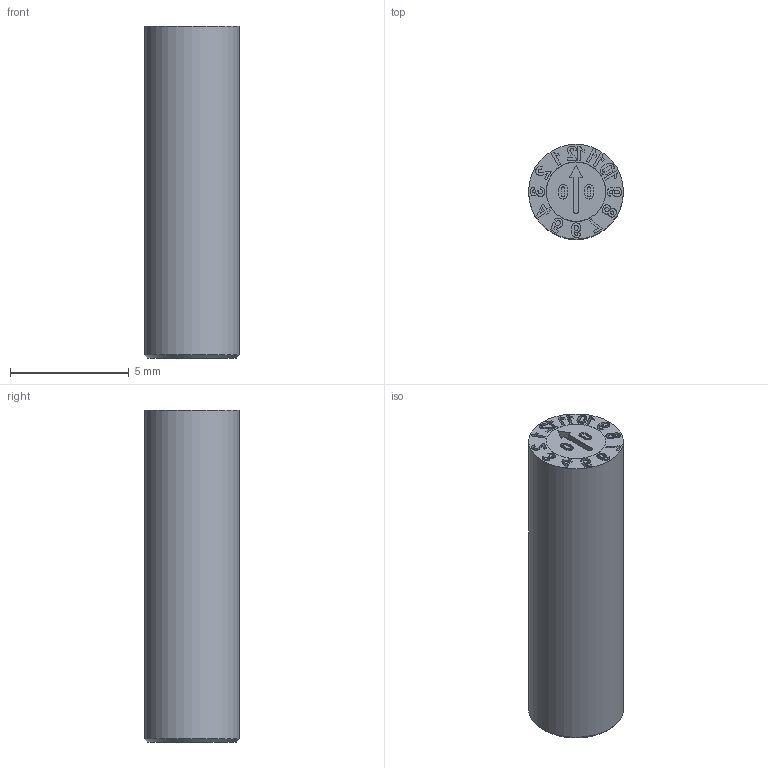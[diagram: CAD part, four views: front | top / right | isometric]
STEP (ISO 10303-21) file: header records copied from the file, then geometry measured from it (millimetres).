
FILE_DESCRIPTION(/* description */ (''),/* implementation_level */ '2;1');
FILE_NAME(/* name */ 'IMC-D1000-MY4.step',/* time_stamp */ '2025-04-07T11:01:25+02:00',/* author */ (''),/* organization */ (''),/* preprocessor_version */ 'ST-DEVELOPER v20.1',/* originating_system */ 'Autodesk Translation Framework v14.4.0.0',/* authorisation */ '');
FILE_SCHEMA (('AUTOMOTIVE_DESIGN { 1 0 10303 214 3 1 1 }'));
Length unit declared in the file: millimetre
Products named in the file (1): D1000-MY4
Bounding box: 4 x 4 x 14 mm (x, y, z)
Volume: 167.5 mm3; surface area: 242.8 mm2
Topology: 1 solids, 1 shells, 339 faces, 925 edges, 616 vertices
Faces by surface type: bspline 231, plane 100, cylinder 5, cone 3
Full cylindrical faces by diameter (mm): 1.623 x1, 2.5 x1, 2.51 x1, 4 x1
Entity records: 12834 total; most frequent: CARTESIAN_POINT 5807, ORIENTED_EDGE 1848, EDGE_CURVE 924, DIRECTION 693, VERTEX_POINT 616, B_SPLINE_CURVE_WITH_KNOTS 462, LINE 449, VECTOR 449
